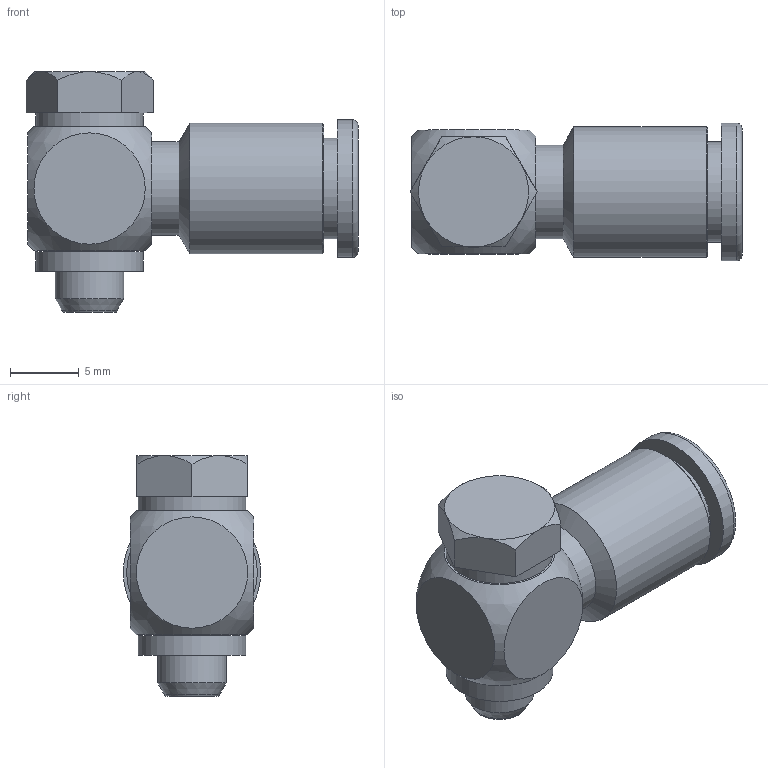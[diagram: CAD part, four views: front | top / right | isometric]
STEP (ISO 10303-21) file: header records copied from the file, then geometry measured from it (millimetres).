
FILE_DESCRIPTION(('Bauteilbeschreibung','HiCAD-Model','HiCAD-STEP-TRANSLATION','Bauteilbeschreibung'),'2;1');
FILE_NAME('B:/ABGLEICH/ZEICHNUNGEN/STEP FÜR INTERNET/STEP/IPSO 017/S11203_IPSO_017_5_M5.STP','2011-10-04T10:05:14+00:00',('Konstrukteur'),('Konstrukteur Firma GmbH'),' HiCAD neXt 2008, Step 3.1.1401.2J ','HiCAD neXt 2008','confidential');
FILE_SCHEMA(('AUTOMOTIVE_DESIGN { 1 2 10303 214 0 1 1 1 }'));
Length unit declared in the file: millimetre
Products named in the file (8): S11203_IPSO_017_5_M5; A00031; A4101; A41010; DIN 13_M5; A00041; DR5_1; R201203
Assembly tree (7 placements, depth 3):
  S11203_IPSO_017_5_M5
    A00031
    A4101
    A41010
      DIN 13_M5
    A00041
    DR5_1
    R201203
Bounding box: 24.12 x 10 x 17.5 mm (x, y, z)
Volume: 1369.2 mm3; surface area: 2501.8 mm2
Topology: 6 solids, 6 shells, 93 faces, 195 edges, 124 vertices
Faces by surface type: plane 37, cylinder 30, cone 21, torus 4, sphere 1
Full cylindrical faces by diameter (mm): 1.5 x2, 2 x1, 3 x1, 4 x1, 4.019 x2, 5 x3, 5.1 x3, 5.2 x2, 5.4 x1, 5.5 x2, 6 x1, 6.8 x1, 7.3 x1, 7.5 x1, 7.8 x2, 9.5 x1, 10 x1
Entity records: 6220 total; most frequent: CARTESIAN_POINT 3694, DIRECTION 408, ORIENTED_EDGE 248, AXIS2_PLACEMENT_3D 194, EDGE_LOOP 170, COLOUR_RGB 125, PRESENTATION_STYLE_ASSIGNMENT 125, EDGE_CURVE 124
